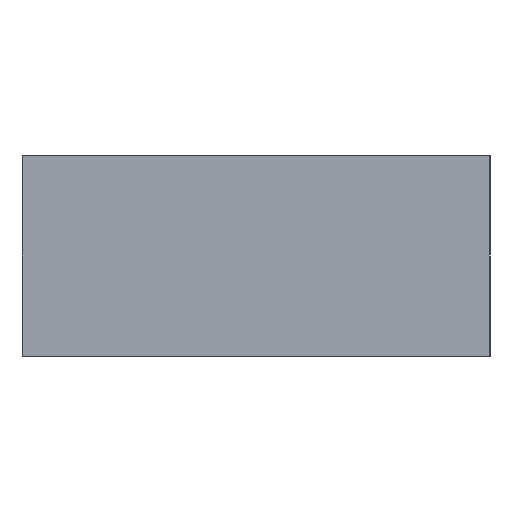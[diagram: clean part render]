
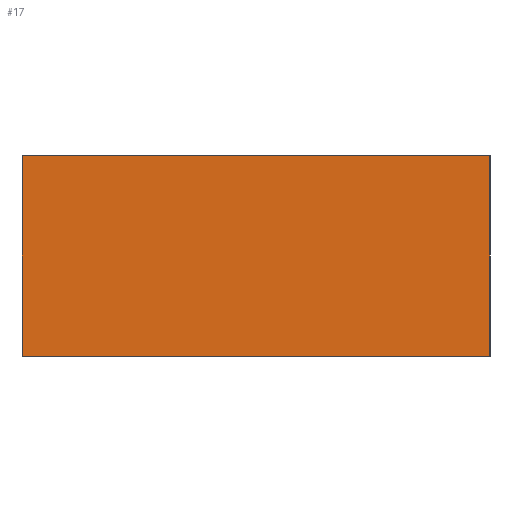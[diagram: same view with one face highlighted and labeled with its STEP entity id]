
A CAD part, left-side view. The second image highlights one B-rep face of the part: STEP entity #17.
In plain terms, the highlighted planar face has unit normal (-1, 0, 0).
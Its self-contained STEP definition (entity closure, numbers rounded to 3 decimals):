
#17 = ADVANCED_FACE('',(#18),#32,.F.);
#18 = FACE_BOUND('',#19,.F.);
#19 = EDGE_LOOP('',(#20,#55,#83,#111));
#20 = ORIENTED_EDGE('',*,*,#21,.F.);
#21 = EDGE_CURVE('',#22,#24,#26,.T.);
#22 = VERTEX_POINT('',#23);
#23 = CARTESIAN_POINT('',(0.,0.,0.));
#24 = VERTEX_POINT('',#25);
#25 = CARTESIAN_POINT('',(0.,0.,12.));
#26 = SURFACE_CURVE('',#27,(#31,#43),.PCURVE_S1.);
#27 = LINE('',#28,#29);
#28 = CARTESIAN_POINT('',(0.,0.,0.));
#29 = VECTOR('',#30,1.);
#30 = DIRECTION('',(0.,0.,1.));
#31 = PCURVE('',#32,#37);
#32 = PLANE('',#33);
#33 = AXIS2_PLACEMENT_3D('',#34,#35,#36);
#34 = CARTESIAN_POINT('',(0.,0.,0.));
#35 = DIRECTION('',(1.,0.,0.));
#36 = DIRECTION('',(0.,0.,1.));
#37 = DEFINITIONAL_REPRESENTATION('',(#38),#42);
#38 = LINE('',#39,#40);
#39 = CARTESIAN_POINT('',(0.,0.));
#40 = VECTOR('',#41,1.);
#41 = DIRECTION('',(1.,0.));
#42 = ( GEOMETRIC_REPRESENTATION_CONTEXT(2)
PARAMETRIC_REPRESENTATION_CONTEXT() REPRESENTATION_CONTEXT('2D SPACE',''
  ) );
#43 = PCURVE('',#44,#49);
#44 = PLANE('',#45);
#45 = AXIS2_PLACEMENT_3D('',#46,#47,#48);
#46 = CARTESIAN_POINT('',(0.,0.,0.));
#47 = DIRECTION('',(0.,1.,0.));
#48 = DIRECTION('',(0.,0.,1.));
#49 = DEFINITIONAL_REPRESENTATION('',(#50),#54);
#50 = LINE('',#51,#52);
#51 = CARTESIAN_POINT('',(0.,0.));
#52 = VECTOR('',#53,1.);
#53 = DIRECTION('',(1.,0.));
#54 = ( GEOMETRIC_REPRESENTATION_CONTEXT(2)
PARAMETRIC_REPRESENTATION_CONTEXT() REPRESENTATION_CONTEXT('2D SPACE',''
  ) );
#55 = ORIENTED_EDGE('',*,*,#56,.T.);
#56 = EDGE_CURVE('',#22,#57,#59,.T.);
#57 = VERTEX_POINT('',#58);
#58 = CARTESIAN_POINT('',(0.,28.,0.));
#59 = SURFACE_CURVE('',#60,(#64,#71),.PCURVE_S1.);
#60 = LINE('',#61,#62);
#61 = CARTESIAN_POINT('',(0.,0.,0.));
#62 = VECTOR('',#63,1.);
#63 = DIRECTION('',(0.,1.,0.));
#64 = PCURVE('',#32,#65);
#65 = DEFINITIONAL_REPRESENTATION('',(#66),#70);
#66 = LINE('',#67,#68);
#67 = CARTESIAN_POINT('',(0.,0.));
#68 = VECTOR('',#69,1.);
#69 = DIRECTION('',(0.,-1.));
#70 = ( GEOMETRIC_REPRESENTATION_CONTEXT(2)
PARAMETRIC_REPRESENTATION_CONTEXT() REPRESENTATION_CONTEXT('2D SPACE',''
  ) );
#71 = PCURVE('',#72,#77);
#72 = PLANE('',#73);
#73 = AXIS2_PLACEMENT_3D('',#74,#75,#76);
#74 = CARTESIAN_POINT('',(0.,0.,0.));
#75 = DIRECTION('',(0.,0.,1.));
#76 = DIRECTION('',(1.,0.,0.));
#77 = DEFINITIONAL_REPRESENTATION('',(#78),#82);
#78 = LINE('',#79,#80);
#79 = CARTESIAN_POINT('',(0.,0.));
#80 = VECTOR('',#81,1.);
#81 = DIRECTION('',(0.,1.));
#82 = ( GEOMETRIC_REPRESENTATION_CONTEXT(2)
PARAMETRIC_REPRESENTATION_CONTEXT() REPRESENTATION_CONTEXT('2D SPACE',''
  ) );
#83 = ORIENTED_EDGE('',*,*,#84,.T.);
#84 = EDGE_CURVE('',#57,#85,#87,.T.);
#85 = VERTEX_POINT('',#86);
#86 = CARTESIAN_POINT('',(0.,28.,12.));
#87 = SURFACE_CURVE('',#88,(#92,#99),.PCURVE_S1.);
#88 = LINE('',#89,#90);
#89 = CARTESIAN_POINT('',(0.,28.,0.));
#90 = VECTOR('',#91,1.);
#91 = DIRECTION('',(0.,0.,1.));
#92 = PCURVE('',#32,#93);
#93 = DEFINITIONAL_REPRESENTATION('',(#94),#98);
#94 = LINE('',#95,#96);
#95 = CARTESIAN_POINT('',(0.,-28.));
#96 = VECTOR('',#97,1.);
#97 = DIRECTION('',(1.,0.));
#98 = ( GEOMETRIC_REPRESENTATION_CONTEXT(2)
PARAMETRIC_REPRESENTATION_CONTEXT() REPRESENTATION_CONTEXT('2D SPACE',''
  ) );
#99 = PCURVE('',#100,#105);
#100 = PLANE('',#101);
#101 = AXIS2_PLACEMENT_3D('',#102,#103,#104);
#102 = CARTESIAN_POINT('',(0.,28.,0.));
#103 = DIRECTION('',(0.,1.,0.));
#104 = DIRECTION('',(0.,0.,1.));
#105 = DEFINITIONAL_REPRESENTATION('',(#106),#110);
#106 = LINE('',#107,#108);
#107 = CARTESIAN_POINT('',(0.,0.));
#108 = VECTOR('',#109,1.);
#109 = DIRECTION('',(1.,0.));
#110 = ( GEOMETRIC_REPRESENTATION_CONTEXT(2)
PARAMETRIC_REPRESENTATION_CONTEXT() REPRESENTATION_CONTEXT('2D SPACE',''
  ) );
#111 = ORIENTED_EDGE('',*,*,#112,.F.);
#112 = EDGE_CURVE('',#24,#85,#113,.T.);
#113 = SURFACE_CURVE('',#114,(#118,#125),.PCURVE_S1.);
#114 = LINE('',#115,#116);
#115 = CARTESIAN_POINT('',(0.,0.,12.));
#116 = VECTOR('',#117,1.);
#117 = DIRECTION('',(0.,1.,0.));
#118 = PCURVE('',#32,#119);
#119 = DEFINITIONAL_REPRESENTATION('',(#120),#124);
#120 = LINE('',#121,#122);
#121 = CARTESIAN_POINT('',(12.,0.));
#122 = VECTOR('',#123,1.);
#123 = DIRECTION('',(0.,-1.));
#124 = ( GEOMETRIC_REPRESENTATION_CONTEXT(2)
PARAMETRIC_REPRESENTATION_CONTEXT() REPRESENTATION_CONTEXT('2D SPACE',''
  ) );
#125 = PCURVE('',#126,#131);
#126 = PLANE('',#127);
#127 = AXIS2_PLACEMENT_3D('',#128,#129,#130);
#128 = CARTESIAN_POINT('',(0.,0.,12.));
#129 = DIRECTION('',(0.,0.,1.));
#130 = DIRECTION('',(1.,0.,0.));
#131 = DEFINITIONAL_REPRESENTATION('',(#132),#136);
#132 = LINE('',#133,#134);
#133 = CARTESIAN_POINT('',(0.,0.));
#134 = VECTOR('',#135,1.);
#135 = DIRECTION('',(0.,1.));
#136 = ( GEOMETRIC_REPRESENTATION_CONTEXT(2)
PARAMETRIC_REPRESENTATION_CONTEXT() REPRESENTATION_CONTEXT('2D SPACE',''
  ) );
